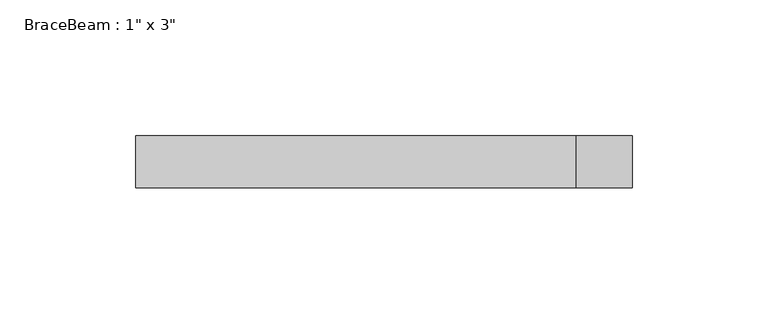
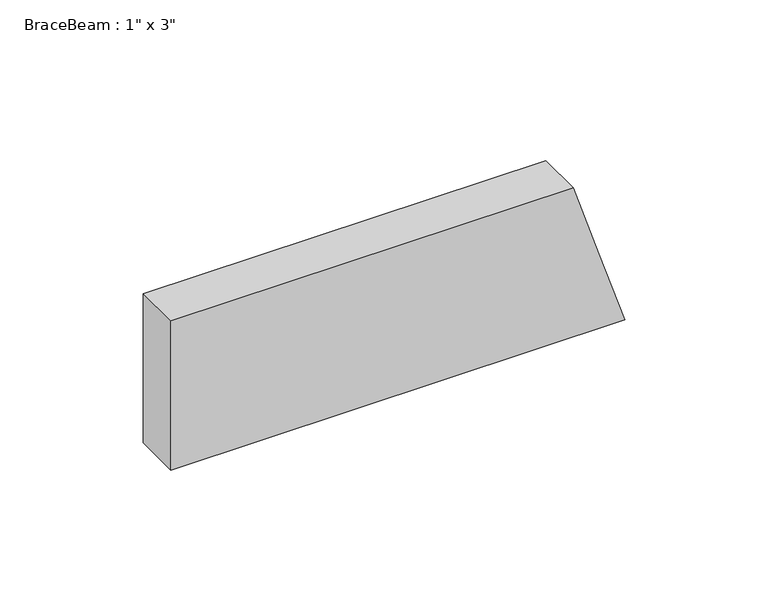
"""IFC4 building model written with IfcOpenShell, lengths in millimetres: beam geometry."""

from ifc_helpers import new_model, si_unit, origin, place, context, project, spatial, faceted_brep, source, transform, mapped, element, save


def beam_01728432(model_context):
    return source(origin(), model_context, "Body", "Brep", [
        faceted_brep([(-86.9278711, -9.525, -31.75), (-86.9278711, 9.525, -31.75), (95.6423486, 9.525, -31.75), (95.6423486, -9.525, -31.75), (-86.9278711, 9.525, 31.75), (74.9166541, 9.525, 31.75), (85.2795014, 9.525, 0.0), (-86.9278711, -9.525, 31.75), (74.9166541, -9.525, 31.75), (85.2795014, -9.525, 0.0)], [[[0, 1, 2, 3]], [[1, 4, 5, 6, 2]], [[4, 7, 8, 5]], [[7, 0, 3, 9, 8]], [[7, 4, 1, 0]], [[5, 8, 9, 3, 2, 6]]]),
    ])


if __name__ == "__main__":
    model = new_model("IFC4")
    model_context = context("Model", 3, world=origin())
    ifc_project = project(units=[si_unit("LENGTHUNIT", "METRE", prefix="MILLI")], contexts=[model_context])
    site = spatial("IfcSite", under=ifc_project)
    building = spatial("IfcBuilding", under=site)
    placement = place(None, origin())
    beam_shape = beam_01728432(model_context)
    element("IfcBeam", 1, ObjectType="BraceBeam : 1\" x 3\"", at=placement, inside=building, context=model_context, shape_type="MappedRepresentation", body=[
        mapped(beam_shape, transform((0.0, 0.0, 0.0), x_axis=(1.0, 0.0, 0.0), y_axis=(0.0, 1.0, 0.0), z_axis=(0.0, 0.0, 1.0))),
    ])
    save(model, "model.ifc")
